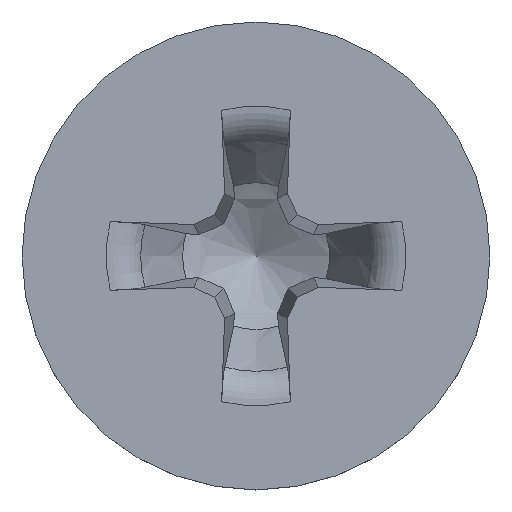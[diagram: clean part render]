
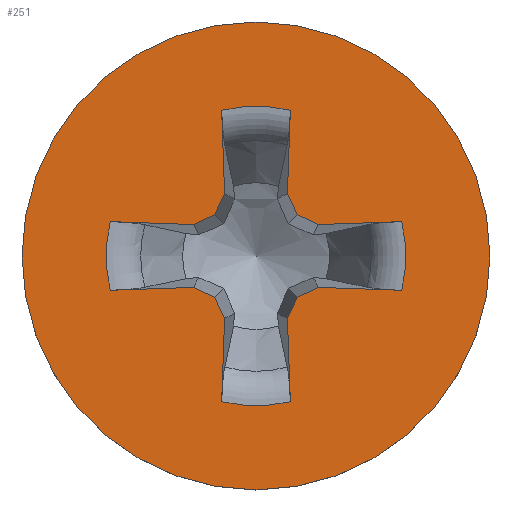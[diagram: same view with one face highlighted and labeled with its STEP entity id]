
A CAD part, top view. The second image highlights one B-rep face of the part: STEP entity #251.
In plain terms, the highlighted planar face has unit normal (0, 0, 1).
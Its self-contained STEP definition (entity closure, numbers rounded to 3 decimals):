
#74=PLANE('',#1251);
#92=LINE('',#2883,#156);
#93=LINE('',#2888,#157);
#94=LINE('',#2890,#158);
#95=LINE('',#2892,#159);
#96=LINE('',#2894,#160);
#97=LINE('',#2898,#161);
#98=LINE('',#2900,#162);
#99=LINE('',#2902,#163);
#100=LINE('',#2904,#164);
#101=LINE('',#2908,#165);
#102=LINE('',#2910,#166);
#103=LINE('',#2912,#167);
#104=LINE('',#2914,#168);
#105=LINE('',#2918,#169);
#106=LINE('',#2920,#170);
#107=LINE('',#2922,#171);
#156=VECTOR('',#1313,1.);
#157=VECTOR('',#1316,1.);
#158=VECTOR('',#1317,1.);
#159=VECTOR('',#1318,1.);
#160=VECTOR('',#1319,1.);
#161=VECTOR('',#1322,1.);
#162=VECTOR('',#1323,1.);
#163=VECTOR('',#1324,1.);
#164=VECTOR('',#1325,1.);
#165=VECTOR('',#1328,1.);
#166=VECTOR('',#1329,1.);
#167=VECTOR('',#1330,1.);
#168=VECTOR('',#1331,1.);
#169=VECTOR('',#1334,1.);
#170=VECTOR('',#1335,1.);
#171=VECTOR('',#1336,1.);
#228=FACE_BOUND('',#396,.T.);
#229=FACE_BOUND('',#397,.T.);
#251=ADVANCED_FACE('',(#228,#229),#74,.F.);
#396=EDGE_LOOP('',(#529));
#397=EDGE_LOOP('',(#530,#531,#532,#533,#534,#535,#536,#537,#538,#539,#540,
#541,#542,#543,#544,#545,#546,#547,#548,#549));
#476=CIRCLE('',#1246,3.65);
#477=CIRCLE('',#1247,2.336);
#478=CIRCLE('',#1248,2.336);
#479=CIRCLE('',#1249,2.336);
#480=CIRCLE('',#1250,2.336);
#529=ORIENTED_EDGE('',*,*,#999,.T.);
#530=ORIENTED_EDGE('',*,*,#1000,.F.);
#531=ORIENTED_EDGE('',*,*,#1001,.T.);
#532=ORIENTED_EDGE('',*,*,#1002,.F.);
#533=ORIENTED_EDGE('',*,*,#1003,.F.);
#534=ORIENTED_EDGE('',*,*,#1004,.F.);
#535=ORIENTED_EDGE('',*,*,#1005,.F.);
#536=ORIENTED_EDGE('',*,*,#1006,.T.);
#537=ORIENTED_EDGE('',*,*,#1007,.F.);
#538=ORIENTED_EDGE('',*,*,#1008,.F.);
#539=ORIENTED_EDGE('',*,*,#1009,.F.);
#540=ORIENTED_EDGE('',*,*,#1010,.F.);
#541=ORIENTED_EDGE('',*,*,#1011,.T.);
#542=ORIENTED_EDGE('',*,*,#1012,.F.);
#543=ORIENTED_EDGE('',*,*,#1013,.F.);
#544=ORIENTED_EDGE('',*,*,#1014,.F.);
#545=ORIENTED_EDGE('',*,*,#1015,.F.);
#546=ORIENTED_EDGE('',*,*,#1016,.T.);
#547=ORIENTED_EDGE('',*,*,#1017,.F.);
#548=ORIENTED_EDGE('',*,*,#1018,.F.);
#549=ORIENTED_EDGE('',*,*,#1019,.F.);
#883=VERTEX_POINT('',#2882);
#884=VERTEX_POINT('',#2884);
#885=VERTEX_POINT('',#2885);
#886=VERTEX_POINT('',#2887);
#887=VERTEX_POINT('',#2889);
#888=VERTEX_POINT('',#2891);
#889=VERTEX_POINT('',#2893);
#890=VERTEX_POINT('',#2895);
#891=VERTEX_POINT('',#2897);
#892=VERTEX_POINT('',#2899);
#893=VERTEX_POINT('',#2901);
#894=VERTEX_POINT('',#2903);
#895=VERTEX_POINT('',#2905);
#896=VERTEX_POINT('',#2907);
#897=VERTEX_POINT('',#2909);
#898=VERTEX_POINT('',#2911);
#899=VERTEX_POINT('',#2913);
#900=VERTEX_POINT('',#2915);
#901=VERTEX_POINT('',#2917);
#902=VERTEX_POINT('',#2919);
#903=VERTEX_POINT('',#2921);
#999=EDGE_CURVE('',#883,#883,#476,.T.);
#1000=EDGE_CURVE('',#884,#885,#92,.T.);
#1001=EDGE_CURVE('',#884,#886,#477,.T.);
#1002=EDGE_CURVE('',#887,#886,#93,.T.);
#1003=EDGE_CURVE('',#888,#887,#94,.T.);
#1004=EDGE_CURVE('',#889,#888,#95,.T.);
#1005=EDGE_CURVE('',#890,#889,#96,.T.);
#1006=EDGE_CURVE('',#890,#891,#478,.T.);
#1007=EDGE_CURVE('',#892,#891,#97,.T.);
#1008=EDGE_CURVE('',#893,#892,#98,.T.);
#1009=EDGE_CURVE('',#894,#893,#99,.T.);
#1010=EDGE_CURVE('',#895,#894,#100,.T.);
#1011=EDGE_CURVE('',#895,#896,#479,.T.);
#1012=EDGE_CURVE('',#897,#896,#101,.T.);
#1013=EDGE_CURVE('',#898,#897,#102,.T.);
#1014=EDGE_CURVE('',#899,#898,#103,.T.);
#1015=EDGE_CURVE('',#900,#899,#104,.T.);
#1016=EDGE_CURVE('',#900,#901,#480,.T.);
#1017=EDGE_CURVE('',#902,#901,#105,.T.);
#1018=EDGE_CURVE('',#903,#902,#106,.T.);
#1019=EDGE_CURVE('',#885,#903,#107,.T.);
#1246=AXIS2_PLACEMENT_3D('',#2881,#1311,#1312);
#1247=AXIS2_PLACEMENT_3D('',#2886,#1314,#1315);
#1248=AXIS2_PLACEMENT_3D('',#2896,#1320,#1321);
#1249=AXIS2_PLACEMENT_3D('',#2906,#1326,#1327);
#1250=AXIS2_PLACEMENT_3D('',#2916,#1332,#1333);
#1251=AXIS2_PLACEMENT_3D('',#2923,#1337,#1338);
#1311=DIRECTION('',(0.,0.,1.));
#1312=DIRECTION('',(1.,0.,0.));
#1313=DIRECTION('',(-0.999,-0.035,0.));
#1314=DIRECTION('',(0.,0.,-1.));
#1315=DIRECTION('',(-1.,0.,0.));
#1316=DIRECTION('',(0.999,-0.035,0.));
#1317=DIRECTION('',(0.906,0.423,0.));
#1318=DIRECTION('',(0.423,0.906,0.));
#1319=DIRECTION('',(-0.035,0.999,0.));
#1320=DIRECTION('',(0.,0.,-1.));
#1321=DIRECTION('',(-1.,0.,0.));
#1322=DIRECTION('',(-0.035,-0.999,0.));
#1323=DIRECTION('',(0.423,-0.906,0.));
#1324=DIRECTION('',(0.906,-0.423,0.));
#1325=DIRECTION('',(0.999,0.035,0.));
#1326=DIRECTION('',(0.,0.,-1.));
#1327=DIRECTION('',(-1.,0.,0.));
#1328=DIRECTION('',(-0.999,0.035,0.));
#1329=DIRECTION('',(-0.906,-0.423,0.));
#1330=DIRECTION('',(-0.423,-0.906,0.));
#1331=DIRECTION('',(0.035,-0.999,0.));
#1332=DIRECTION('',(0.,0.,-1.));
#1333=DIRECTION('',(-1.,0.,0.));
#1334=DIRECTION('',(0.035,0.999,0.));
#1335=DIRECTION('',(-0.423,0.906,0.));
#1336=DIRECTION('',(-0.906,0.423,0.));
#1337=DIRECTION('',(0.,0.,-1.));
#1338=DIRECTION('',(-1.,0.,0.));
#2881=CARTESIAN_POINT('',(0.,0.,3.08));
#2882=CARTESIAN_POINT('',(3.65,0.,3.08));
#2883=CARTESIAN_POINT('',(0.111,0.46,3.08));
#2884=CARTESIAN_POINT('',(2.274,0.535,3.08));
#2885=CARTESIAN_POINT('',(0.975,0.49,3.08));
#2886=CARTESIAN_POINT('',(0.,0.,3.08));
#2887=CARTESIAN_POINT('',(2.274,-0.535,3.08));
#2888=CARTESIAN_POINT('',(-0.143,-0.451,3.08));
#2889=CARTESIAN_POINT('',(0.975,-0.49,3.08));
#2890=CARTESIAN_POINT('',(1.76,-0.124,3.08));
#2891=CARTESIAN_POINT('',(0.644,-0.644,3.08));
#2892=CARTESIAN_POINT('',(2.174,2.636,3.08));
#2893=CARTESIAN_POINT('',(0.49,-0.975,3.08));
#2894=CARTESIAN_POINT('',(0.328,3.661,3.08));
#2895=CARTESIAN_POINT('',(0.535,-2.274,3.08));
#2896=CARTESIAN_POINT('',(0.,0.,3.08));
#2897=CARTESIAN_POINT('',(-0.535,-2.274,3.08));
#2898=CARTESIAN_POINT('',(-0.328,3.661,3.08));
#2899=CARTESIAN_POINT('',(-0.49,-0.975,3.08));
#2900=CARTESIAN_POINT('',(-2.174,2.636,3.08));
#2901=CARTESIAN_POINT('',(-0.644,-0.644,3.08));
#2902=CARTESIAN_POINT('',(-1.76,-0.124,3.08));
#2903=CARTESIAN_POINT('',(-0.975,-0.49,3.08));
#2904=CARTESIAN_POINT('',(0.143,-0.451,3.08));
#2905=CARTESIAN_POINT('',(-2.274,-0.535,3.08));
#2906=CARTESIAN_POINT('',(0.,0.,3.08));
#2907=CARTESIAN_POINT('',(-2.274,0.535,3.08));
#2908=CARTESIAN_POINT('',(-0.111,0.46,3.08));
#2909=CARTESIAN_POINT('',(-0.975,0.49,3.08));
#2910=CARTESIAN_POINT('',(1.036,1.428,3.08));
#2911=CARTESIAN_POINT('',(-0.644,0.644,3.08));
#2912=CARTESIAN_POINT('',(0.622,3.36,3.08));
#2913=CARTESIAN_POINT('',(-0.49,0.975,3.08));
#2914=CARTESIAN_POINT('',(-0.583,3.63,3.08));
#2915=CARTESIAN_POINT('',(-0.535,2.274,3.08));
#2916=CARTESIAN_POINT('',(0.,0.,3.08));
#2917=CARTESIAN_POINT('',(0.535,2.274,3.08));
#2918=CARTESIAN_POINT('',(0.583,3.63,3.08));
#2919=CARTESIAN_POINT('',(0.49,0.975,3.08));
#2920=CARTESIAN_POINT('',(-0.622,3.36,3.08));
#2921=CARTESIAN_POINT('',(0.644,0.644,3.08));
#2922=CARTESIAN_POINT('',(-1.036,1.428,3.08));
#2923=CARTESIAN_POINT('',(0.,3.65,3.08));
